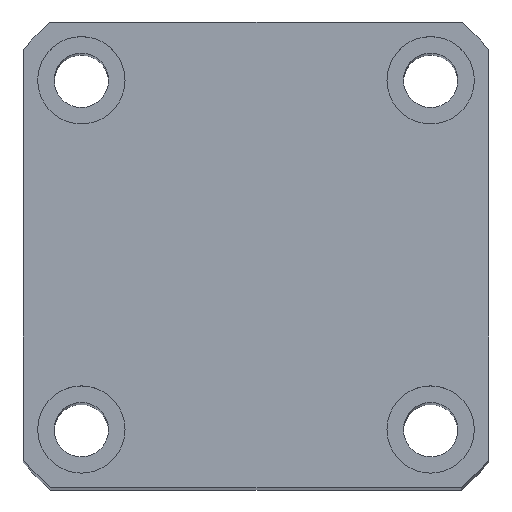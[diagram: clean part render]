
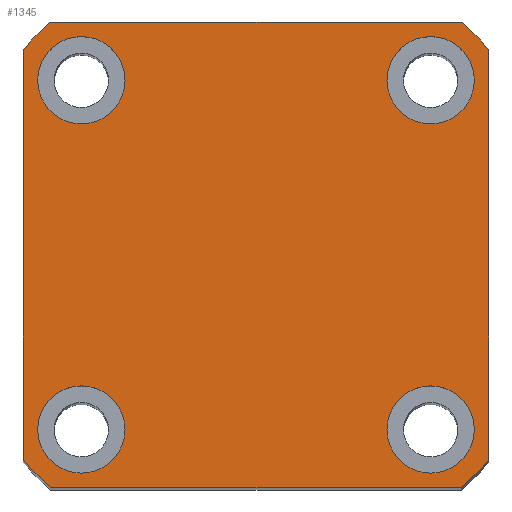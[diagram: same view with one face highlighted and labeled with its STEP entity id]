
A CAD part, top view. The second image highlights one B-rep face of the part: STEP entity #1345.
In plain terms, the highlighted planar face has unit normal (0, 0, 1) as drawn and (1, 0, 0) by its records, which use the part's own axes.
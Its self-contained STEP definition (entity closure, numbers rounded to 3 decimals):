
#121 = CARTESIAN_POINT ( 'NONE',  ( 135., 24., 24. ) ) ;
#143 = FACE_BOUND ( 'NONE', #6764, .T. ) ;
#247 = ORIENTED_EDGE ( 'NONE', *, *, #7244, .T. ) ;
#268 = CARTESIAN_POINT ( 'NONE',  ( 135., 18., 13.5 ) ) ;
#282 = CARTESIAN_POINT ( 'NONE',  ( 135., 18., -18. ) ) ;
#427 = DIRECTION ( 'NONE',  ( 1., 0., 0. ) ) ;
#485 = CARTESIAN_POINT ( 'NONE',  ( 135., 0., 0. ) ) ;
#516 = EDGE_CURVE ( 'NONE', #7537, #1503, #4571, .T. ) ;
#560 = CARTESIAN_POINT ( 'NONE',  ( 135., -18., -18. ) ) ;
#654 = CARTESIAN_POINT ( 'NONE',  ( 135., -18., -18. ) ) ;
#670 = CIRCLE ( 'NONE', #5333, 32. ) ;
#687 = EDGE_CURVE ( 'NONE', #1260, #3211, #7243, .T. ) ;
#690 = CIRCLE ( 'NONE', #7592, 4.5 ) ;
#706 = ORIENTED_EDGE ( 'NONE', *, *, #3910, .F. ) ;
#747 = DIRECTION ( 'NONE',  ( 0., -1., 0. ) ) ;
#784 = LINE ( 'NONE', #3170, #3535 ) ;
#916 = DIRECTION ( 'NONE',  ( 0., 0., -1. ) ) ;
#1004 = ORIENTED_EDGE ( 'NONE', *, *, #1203, .F. ) ;
#1029 = VERTEX_POINT ( 'NONE', #3418 ) ;
#1074 = AXIS2_PLACEMENT_3D ( 'NONE', #6436, #7043, #7641 ) ;
#1084 = CARTESIAN_POINT ( 'NONE',  ( 135., 24., 21.166 ) ) ;
#1126 = DIRECTION ( 'NONE',  ( 0., 0., -1. ) ) ;
#1130 = ORIENTED_EDGE ( 'NONE', *, *, #5706, .T. ) ;
#1169 = CARTESIAN_POINT ( 'NONE',  ( 135., 24., -21.166 ) ) ;
#1171 = CARTESIAN_POINT ( 'NONE',  ( 135., 18., -22.5 ) ) ;
#1203 = EDGE_CURVE ( 'NONE', #1029, #5712, #5506, .T. ) ;
#1257 = EDGE_CURVE ( 'NONE', #3275, #3095, #6759, .T. ) ;
#1260 = VERTEX_POINT ( 'NONE', #2425 ) ;
#1287 = DIRECTION ( 'NONE',  ( 0., 0., -1. ) ) ;
#1324 = VERTEX_POINT ( 'NONE', #1171 ) ;
#1334 = VERTEX_POINT ( 'NONE', #7015 ) ;
#1345 = ADVANCED_FACE ( 'NONE', ( #7321, #6582, #143, #4918, #3309 ), #6951, .T. ) ;
#1353 = CARTESIAN_POINT ( 'NONE',  ( 135., 18., -18. ) ) ;
#1409 = EDGE_LOOP ( 'NONE', ( #5819, #3312, #7146, #7331, #1130, #3585, #5698, #247 ) ) ;
#1459 = AXIS2_PLACEMENT_3D ( 'NONE', #5568, #1856, #6197 ) ;
#1503 = VERTEX_POINT ( 'NONE', #268 ) ;
#1528 = DIRECTION ( 'NONE',  ( 0., 0., -1. ) ) ;
#1612 = DIRECTION ( 'NONE',  ( 1., 0., 0. ) ) ;
#1634 = CARTESIAN_POINT ( 'NONE',  ( 135., 18., 18. ) ) ;
#1676 = VERTEX_POINT ( 'NONE', #1169 ) ;
#1683 = DIRECTION ( 'NONE',  ( 0., 0., -1. ) ) ;
#1702 = EDGE_CURVE ( 'NONE', #5212, #1676, #5017, .T. ) ;
#1763 = DIRECTION ( 'NONE',  ( 0., 0., -1. ) ) ;
#1793 = DIRECTION ( 'NONE',  ( 1., 0., 0. ) ) ;
#1856 = DIRECTION ( 'NONE',  ( 1., 0., 0. ) ) ;
#1895 = ORIENTED_EDGE ( 'NONE', *, *, #5870, .F. ) ;
#2005 = DIRECTION ( 'NONE',  ( 0., 0., -1. ) ) ;
#2040 = CIRCLE ( 'NONE', #2945, 32. ) ;
#2170 = AXIS2_PLACEMENT_3D ( 'NONE', #3045, #7347, #3670 ) ;
#2194 = VECTOR ( 'NONE', #747, 1000. ) ;
#2218 = DIRECTION ( 'NONE',  ( 0., 0., -1. ) ) ;
#2272 = CARTESIAN_POINT ( 'NONE',  ( 135., 0., 0. ) ) ;
#2282 = CARTESIAN_POINT ( 'NONE',  ( 135., -24., -21.166 ) ) ;
#2425 = CARTESIAN_POINT ( 'NONE',  ( 135., -24., 21.166 ) ) ;
#2500 = DIRECTION ( 'NONE',  ( 1., 0., 0. ) ) ;
#2543 = EDGE_CURVE ( 'NONE', #1503, #7537, #4124, .T. ) ;
#2623 = CARTESIAN_POINT ( 'NONE',  ( 135., -24., 24. ) ) ;
#2654 = EDGE_CURVE ( 'NONE', #1676, #3275, #784, .T. ) ;
#2659 = CARTESIAN_POINT ( 'NONE',  ( 135., -18., -22.5 ) ) ;
#2715 = CARTESIAN_POINT ( 'NONE',  ( 135., -21.166, -24. ) ) ;
#2759 = CIRCLE ( 'NONE', #7896, 4.5 ) ;
#2828 = CARTESIAN_POINT ( 'NONE',  ( 135., 21.166, 24. ) ) ;
#2945 = AXIS2_PLACEMENT_3D ( 'NONE', #485, #4859, #1126 ) ;
#2965 = EDGE_CURVE ( 'NONE', #1324, #6661, #7870, .T. ) ;
#2985 = DIRECTION ( 'NONE',  ( 1., 0., 0. ) ) ;
#3045 = CARTESIAN_POINT ( 'NONE',  ( 135., -18., 18. ) ) ;
#3069 = ORIENTED_EDGE ( 'NONE', *, *, #3803, .F. ) ;
#3095 = VERTEX_POINT ( 'NONE', #2828 ) ;
#3170 = CARTESIAN_POINT ( 'NONE',  ( 135., 24., 24. ) ) ;
#3211 = VERTEX_POINT ( 'NONE', #2282 ) ;
#3275 = VERTEX_POINT ( 'NONE', #1084 ) ;
#3309 = FACE_OUTER_BOUND ( 'NONE', #1409, .T. ) ;
#3312 = ORIENTED_EDGE ( 'NONE', *, *, #1702, .T. ) ;
#3418 = CARTESIAN_POINT ( 'NONE',  ( 135., -18., -13.5 ) ) ;
#3462 = CARTESIAN_POINT ( 'NONE',  ( 135., 18., 22.5 ) ) ;
#3500 = AXIS2_PLACEMENT_3D ( 'NONE', #1634, #1612, #1528 ) ;
#3535 = VECTOR ( 'NONE', #6249, 1000. ) ;
#3585 = ORIENTED_EDGE ( 'NONE', *, *, #8080, .T. ) ;
#3670 = DIRECTION ( 'NONE',  ( 0., 0., -1. ) ) ;
#3762 = AXIS2_PLACEMENT_3D ( 'NONE', #560, #427, #1683 ) ;
#3776 = CARTESIAN_POINT ( 'NONE',  ( 135., 24., -24. ) ) ;
#3803 = EDGE_CURVE ( 'NONE', #5135, #7832, #2759, .T. ) ;
#3910 = EDGE_CURVE ( 'NONE', #6661, #1324, #7266, .T. ) ;
#3966 = CARTESIAN_POINT ( 'NONE',  ( 135., 21.166, -24. ) ) ;
#4124 = CIRCLE ( 'NONE', #1459, 4.5 ) ;
#4227 = LINE ( 'NONE', #121, #2194 ) ;
#4246 = ORIENTED_EDGE ( 'NONE', *, *, #2543, .F. ) ;
#4397 = DIRECTION ( 'NONE',  ( 0., 1., 0. ) ) ;
#4498 = CARTESIAN_POINT ( 'NONE',  ( 135., -18., 13.5 ) ) ;
#4571 = CIRCLE ( 'NONE', #3500, 4.5 ) ;
#4668 = DIRECTION ( 'NONE',  ( 1., 0., 0. ) ) ;
#4859 = DIRECTION ( 'NONE',  ( 1., 0., 0. ) ) ;
#4918 = FACE_BOUND ( 'NONE', #7810, .T. ) ;
#5017 = CIRCLE ( 'NONE', #6511, 32. ) ;
#5030 = DIRECTION ( 'NONE',  ( 1., 0., 0. ) ) ;
#5041 = CARTESIAN_POINT ( 'NONE',  ( 135., 0., 0. ) ) ;
#5135 = VERTEX_POINT ( 'NONE', #4498 ) ;
#5212 = VERTEX_POINT ( 'NONE', #3966 ) ;
#5305 = ORIENTED_EDGE ( 'NONE', *, *, #2965, .F. ) ;
#5333 = AXIS2_PLACEMENT_3D ( 'NONE', #6211, #2500, #6818 ) ;
#5506 = CIRCLE ( 'NONE', #3762, 4.5 ) ;
#5546 = EDGE_CURVE ( 'NONE', #6039, #5212, #7876, .T. ) ;
#5568 = CARTESIAN_POINT ( 'NONE',  ( 135., 18., 18. ) ) ;
#5698 = ORIENTED_EDGE ( 'NONE', *, *, #687, .T. ) ;
#5706 = EDGE_CURVE ( 'NONE', #3095, #1334, #4227, .T. ) ;
#5712 = VERTEX_POINT ( 'NONE', #2659 ) ;
#5716 = DIRECTION ( 'NONE',  ( 1., 0., 0. ) ) ;
#5819 = ORIENTED_EDGE ( 'NONE', *, *, #5546, .T. ) ;
#5870 = EDGE_CURVE ( 'NONE', #5712, #1029, #690, .T. ) ;
#6039 = VERTEX_POINT ( 'NONE', #2715 ) ;
#6197 = DIRECTION ( 'NONE',  ( 0., 0., -1. ) ) ;
#6211 = CARTESIAN_POINT ( 'NONE',  ( 135., 0., 0. ) ) ;
#6249 = DIRECTION ( 'NONE',  ( 0., 0., 1. ) ) ;
#6250 = VECTOR ( 'NONE', #4397, 1000. ) ;
#6369 = ORIENTED_EDGE ( 'NONE', *, *, #6779, .F. ) ;
#6373 = EDGE_LOOP ( 'NONE', ( #1895, #1004 ) ) ;
#6436 = CARTESIAN_POINT ( 'NONE',  ( 135., 0., 0. ) ) ;
#6503 = CARTESIAN_POINT ( 'NONE',  ( 135., -18., 22.5 ) ) ;
#6511 = AXIS2_PLACEMENT_3D ( 'NONE', #5041, #6914, #7636 ) ;
#6582 = FACE_BOUND ( 'NONE', #6827, .T. ) ;
#6661 = VERTEX_POINT ( 'NONE', #7222 ) ;
#6670 = AXIS2_PLACEMENT_3D ( 'NONE', #282, #4668, #916 ) ;
#6686 = CARTESIAN_POINT ( 'NONE',  ( 135., -18., 18. ) ) ;
#6759 = CIRCLE ( 'NONE', #7461, 32. ) ;
#6764 = EDGE_LOOP ( 'NONE', ( #5305, #706 ) ) ;
#6779 = EDGE_CURVE ( 'NONE', #7832, #5135, #7962, .T. ) ;
#6818 = DIRECTION ( 'NONE',  ( 0., 0., -1. ) ) ;
#6827 = EDGE_LOOP ( 'NONE', ( #3069, #6369 ) ) ;
#6914 = DIRECTION ( 'NONE',  ( 1., 0., 0. ) ) ;
#6951 = PLANE ( 'NONE',  #1074 ) ;
#7015 = CARTESIAN_POINT ( 'NONE',  ( 135., -21.166, 24. ) ) ;
#7043 = DIRECTION ( 'NONE',  ( 1., 0., 0. ) ) ;
#7064 = VECTOR ( 'NONE', #2218, 1000. ) ;
#7146 = ORIENTED_EDGE ( 'NONE', *, *, #2654, .T. ) ;
#7222 = CARTESIAN_POINT ( 'NONE',  ( 135., 18., -13.5 ) ) ;
#7243 = LINE ( 'NONE', #2623, #7064 ) ;
#7244 = EDGE_CURVE ( 'NONE', #3211, #6039, #670, .T. ) ;
#7266 = CIRCLE ( 'NONE', #6670, 4.5 ) ;
#7277 = DIRECTION ( 'NONE',  ( 0., 0., -1. ) ) ;
#7321 = FACE_BOUND ( 'NONE', #6373, .T. ) ;
#7331 = ORIENTED_EDGE ( 'NONE', *, *, #1257, .T. ) ;
#7347 = DIRECTION ( 'NONE',  ( 1., 0., 0. ) ) ;
#7364 = AXIS2_PLACEMENT_3D ( 'NONE', #1353, #5716, #2005 ) ;
#7461 = AXIS2_PLACEMENT_3D ( 'NONE', #2272, #1793, #1763 ) ;
#7537 = VERTEX_POINT ( 'NONE', #3462 ) ;
#7592 = AXIS2_PLACEMENT_3D ( 'NONE', #654, #5030, #1287 ) ;
#7636 = DIRECTION ( 'NONE',  ( 0., 0., -1. ) ) ;
#7641 = DIRECTION ( 'NONE',  ( 0., 0., -1. ) ) ;
#7723 = ORIENTED_EDGE ( 'NONE', *, *, #516, .F. ) ;
#7810 = EDGE_LOOP ( 'NONE', ( #4246, #7723 ) ) ;
#7832 = VERTEX_POINT ( 'NONE', #6503 ) ;
#7870 = CIRCLE ( 'NONE', #7364, 4.5 ) ;
#7876 = LINE ( 'NONE', #3776, #6250 ) ;
#7896 = AXIS2_PLACEMENT_3D ( 'NONE', #6686, #2985, #7277 ) ;
#7962 = CIRCLE ( 'NONE', #2170, 4.5 ) ;
#8080 = EDGE_CURVE ( 'NONE', #1334, #1260, #2040, .T. ) ;
